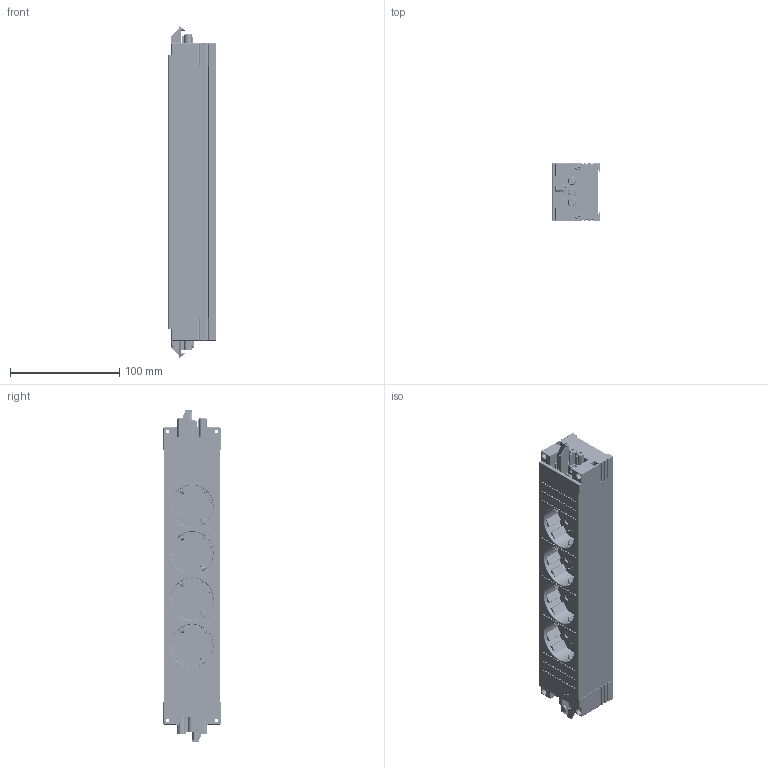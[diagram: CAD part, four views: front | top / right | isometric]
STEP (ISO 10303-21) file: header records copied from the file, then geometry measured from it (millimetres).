
FILE_DESCRIPTION(/* description */ (''),/* implementation_level */ '2;1');
FILE_NAME(/* name */ '906_18819.stp',/* time_stamp */ '2024-09-12T12:34:36+03:00',/* author */ ('popa.ovidiu'),/* organization */ (''),/* preprocessor_version */ 'ST-DEVELOPER v20',/* originating_system */ 'Autodesk Inventor 2025',/* authorisation */ '');
FILE_SCHEMA (('AUTOMOTIVE_DESIGN { 1 0 10303 214 3 1 1 }'));
Products named in the file (1): BG_906.18819
Bounding box: 43.8 x 52.4 x 304 mm (x, y, z)
Volume: 321510.2 mm3; surface area: 303858.6 mm2
Topology: 56 solids, 68 shells, 9595 faces, 25782 edges, 16636 vertices
Faces by surface type: plane 5822, cylinder 1995, bspline 1226, torus 330, cone 167, sphere 55
Full cylindrical faces by diameter (mm): 1 x8, 1.3 x8, 1.4 x8, 2.1 x42, 2.257 x4, 2.43 x4, 2.459 x3, 2.5 x43, 2.6 x4, 2.8 x39, 2.9 x16, 3 x27, 3.1 x11, 3.2 x16, 3.29 x1, 3.3 x2, 3.5 x4, 3.6 x8, 4 x15, 4.1 x3, 4.166 x4, 4.2 x3, 4.34 x4, 5.2 x4, 5.5 x8, 5.6 x8, 6 x12, 6.3 x2, 8.5 x8, 39 x4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
Entity records: 391508 total; most frequent: CARTESIAN_POINT 147281, ORIENTED_EDGE 51480, DIRECTION 43940, EDGE_CURVE 25740, LINE 17952, VECTOR 17952, VERTEX_POINT 16635, AXIS2_PLACEMENT_3D 12994
